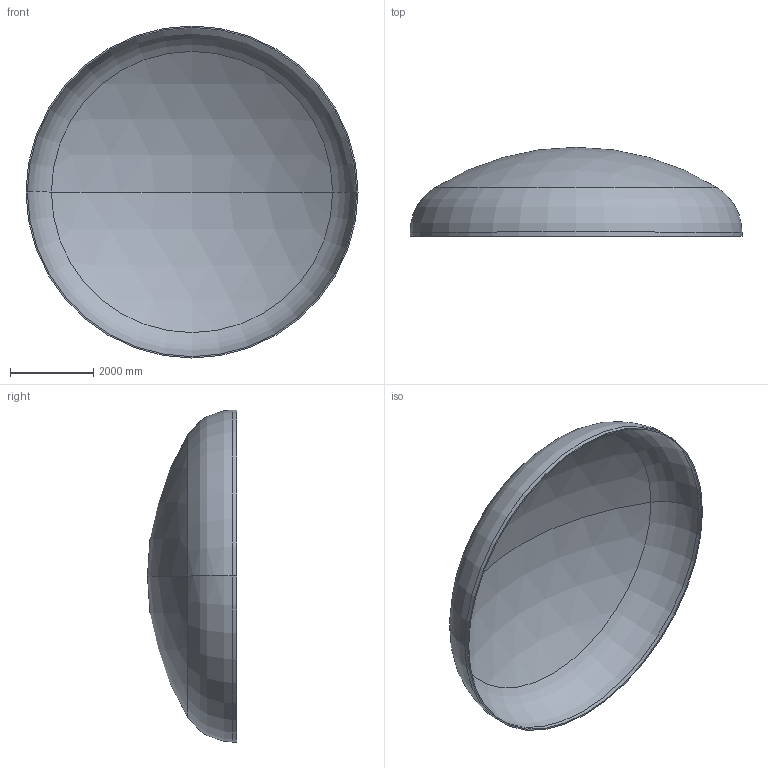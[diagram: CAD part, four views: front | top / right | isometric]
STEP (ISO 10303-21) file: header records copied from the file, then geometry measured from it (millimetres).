
FILE_DESCRIPTION (( 'STEP AP203' ), '1' );
FILE_NAME ('DIN 28013 Korbbogenform_-_Boden DIN 28013 - 8000 x 100 - I - s=33.step', '2016-07-04T11:00:34', ( '' ), ( '' ), 'SwSTEP 2.0', 'SolidWorks 2013', '' );
FILE_SCHEMA (( 'CONFIG_CONTROL_DESIGN' ));
Length unit declared in the file: millimetre
Products named in the file (1): DIN 28013 Korbbogenform_-_Boden DIN 28013 - 8000 x 100 - I - s=33
Bounding box: 8000 x 2146.92 x 8000 mm (x, y, z)
Volume: 2366852190.1 mm3; surface area: 144273769.7 mm2
Topology: 1 solids, 1 shells, 13 faces, 24 edges, 14 vertices
Faces by surface type: torus 4, cylinder 4, sphere 4, plane 1
Entity records: 407 total; most frequent: DIRECTION 72, CARTESIAN_POINT 52, ORIENTED_EDGE 48, AXIS2_PLACEMENT_3D 34, EDGE_CURVE 24, CIRCLE 20, VERTEX_POINT 14, EDGE_LOOP 14
